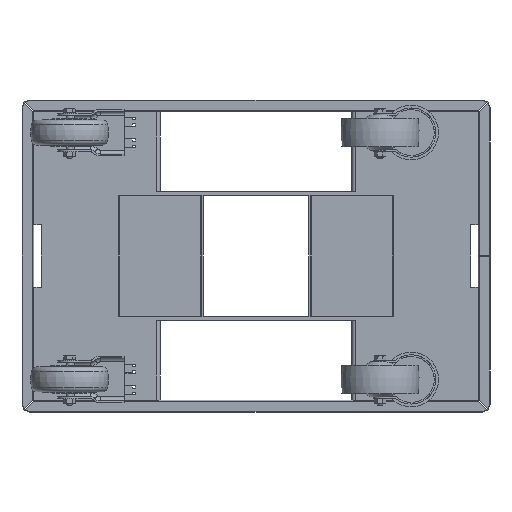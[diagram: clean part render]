
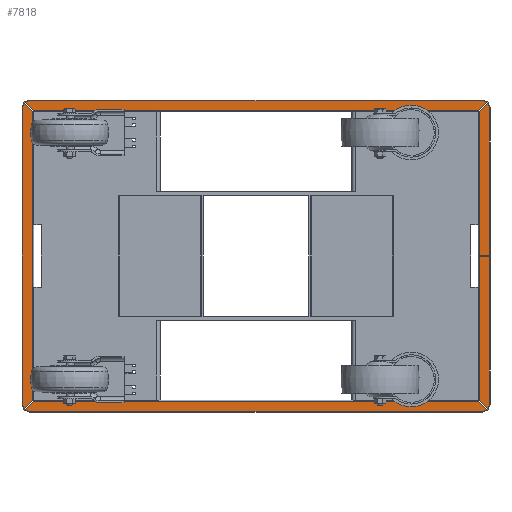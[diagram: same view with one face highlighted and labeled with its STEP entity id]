
A CAD part, front view. The second image highlights one B-rep face of the part: STEP entity #7818.
In plain terms, the highlighted planar face has unit normal (0, -1, 0) as drawn and (0, 1, 0) by its records, which use the part's own axes.
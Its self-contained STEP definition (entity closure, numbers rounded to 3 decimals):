
#340=CIRCLE('',#8972,9.);
#341=CIRCLE('',#8973,9.);
#342=CIRCLE('',#8974,9.);
#343=CIRCLE('',#8975,9.);
#1181=ORIENTED_EDGE('',*,*,#3344,.T.);
#1182=ORIENTED_EDGE('',*,*,#3345,.T.);
#1183=ORIENTED_EDGE('',*,*,#3324,.F.);
#1184=ORIENTED_EDGE('',*,*,#3328,.F.);
#1185=ORIENTED_EDGE('',*,*,#3333,.F.);
#1186=ORIENTED_EDGE('',*,*,#3346,.T.);
#1187=ORIENTED_EDGE('',*,*,#3338,.F.);
#1188=ORIENTED_EDGE('',*,*,#3341,.F.);
#1189=ORIENTED_EDGE('',*,*,#3293,.F.);
#1190=ORIENTED_EDGE('',*,*,#3347,.T.);
#1191=ORIENTED_EDGE('',*,*,#3297,.F.);
#1192=ORIENTED_EDGE('',*,*,#3304,.F.);
#1193=ORIENTED_EDGE('',*,*,#3307,.F.);
#1194=ORIENTED_EDGE('',*,*,#3348,.T.);
#1195=ORIENTED_EDGE('',*,*,#3310,.F.);
#1196=ORIENTED_EDGE('',*,*,#3318,.F.);
#1197=ORIENTED_EDGE('',*,*,#3320,.F.);
#1198=ORIENTED_EDGE('',*,*,#2908,.T.);
#1199=ORIENTED_EDGE('',*,*,#3349,.F.);
#1200=ORIENTED_EDGE('',*,*,#2898,.T.);
#1201=ORIENTED_EDGE('',*,*,#3350,.T.);
#1202=ORIENTED_EDGE('',*,*,#3351,.T.);
#1203=ORIENTED_EDGE('',*,*,#3352,.T.);
#1204=ORIENTED_EDGE('',*,*,#3353,.T.);
#1205=ORIENTED_EDGE('',*,*,#3354,.T.);
#1206=ORIENTED_EDGE('',*,*,#3355,.T.);
#1207=ORIENTED_EDGE('',*,*,#3356,.T.);
#1208=ORIENTED_EDGE('',*,*,#3357,.T.);
#2898=EDGE_CURVE('',#4015,#4016,#4784,.T.);
#2908=EDGE_CURVE('',#4022,#4021,#4787,.F.);
#3293=EDGE_CURVE('',#4365,#4366,#5132,.T.);
#3297=EDGE_CURVE('',#4369,#4370,#5135,.T.);
#3304=EDGE_CURVE('',#4374,#4369,#5140,.T.);
#3307=EDGE_CURVE('',#4376,#4374,#5142,.T.);
#3310=EDGE_CURVE('',#4378,#4379,#5144,.T.);
#3318=EDGE_CURVE('',#4384,#4378,#5150,.T.);
#3320=EDGE_CURVE('',#4022,#4384,#5152,.T.);
#3324=EDGE_CURVE('',#4387,#4388,#5155,.T.);
#3328=EDGE_CURVE('',#4390,#4387,#5158,.T.);
#3333=EDGE_CURVE('',#4393,#4390,#5161,.T.);
#3338=EDGE_CURVE('',#4397,#4398,#5165,.T.);
#3341=EDGE_CURVE('',#4366,#4397,#5167,.T.);
#3344=EDGE_CURVE('',#4399,#4400,#5170,.T.);
#3345=EDGE_CURVE('',#4400,#4388,#5171,.F.);
#3346=EDGE_CURVE('',#4393,#4398,#5172,.F.);
#3347=EDGE_CURVE('',#4365,#4370,#5173,.F.);
#3348=EDGE_CURVE('',#4376,#4379,#5174,.F.);
#3349=EDGE_CURVE('',#4015,#4021,#5175,.T.);
#3350=EDGE_CURVE('',#4016,#4401,#340,.T.);
#3351=EDGE_CURVE('',#4401,#4402,#5176,.T.);
#3352=EDGE_CURVE('',#4402,#4403,#341,.T.);
#3353=EDGE_CURVE('',#4403,#4404,#5177,.T.);
#3354=EDGE_CURVE('',#4404,#4405,#342,.T.);
#3355=EDGE_CURVE('',#4405,#4406,#5178,.T.);
#3356=EDGE_CURVE('',#4406,#4407,#343,.T.);
#3357=EDGE_CURVE('',#4407,#4399,#5179,.T.);
#4015=VERTEX_POINT('',#11951);
#4016=VERTEX_POINT('',#11952);
#4021=VERTEX_POINT('',#11969);
#4022=VERTEX_POINT('',#11971);
#4365=VERTEX_POINT('',#12733);
#4366=VERTEX_POINT('',#12735);
#4369=VERTEX_POINT('',#12743);
#4370=VERTEX_POINT('',#12744);
#4374=VERTEX_POINT('',#12755);
#4376=VERTEX_POINT('',#12761);
#4378=VERTEX_POINT('',#12768);
#4379=VERTEX_POINT('',#12769);
#4384=VERTEX_POINT('',#12782);
#4387=VERTEX_POINT('',#12793);
#4388=VERTEX_POINT('',#12795);
#4390=VERTEX_POINT('',#12801);
#4393=VERTEX_POINT('',#12810);
#4397=VERTEX_POINT('',#12820);
#4398=VERTEX_POINT('',#12822);
#4399=VERTEX_POINT('',#12832);
#4400=VERTEX_POINT('',#12833);
#4401=VERTEX_POINT('',#12840);
#4402=VERTEX_POINT('',#12842);
#4403=VERTEX_POINT('',#12844);
#4404=VERTEX_POINT('',#12846);
#4405=VERTEX_POINT('',#12848);
#4406=VERTEX_POINT('',#12850);
#4407=VERTEX_POINT('',#12852);
#4784=LINE('',#11950,#5514);
#4787=LINE('',#11970,#5517);
#5132=LINE('',#12734,#5862);
#5135=LINE('',#12742,#5865);
#5140=LINE('',#12756,#5870);
#5142=LINE('',#12762,#5872);
#5144=LINE('',#12767,#5874);
#5150=LINE('',#12783,#5880);
#5152=LINE('',#12786,#5882);
#5155=LINE('',#12794,#5885);
#5158=LINE('',#12802,#5888);
#5161=LINE('',#12811,#5891);
#5165=LINE('',#12821,#5895);
#5167=LINE('',#12826,#5897);
#5170=LINE('',#12831,#5900);
#5171=LINE('',#12834,#5901);
#5172=LINE('',#12835,#5902);
#5173=LINE('',#12836,#5903);
#5174=LINE('',#12837,#5904);
#5175=LINE('',#12838,#5905);
#5176=LINE('',#12841,#5906);
#5177=LINE('',#12845,#5907);
#5178=LINE('',#12849,#5908);
#5179=LINE('',#12853,#5909);
#5514=VECTOR('',#9656,1000.);
#5517=VECTOR('',#9679,1000.);
#5862=VECTOR('',#10174,1000.);
#5865=VECTOR('',#10181,1000.);
#5870=VECTOR('',#10192,1000.);
#5872=VECTOR('',#10198,1000.);
#5874=VECTOR('',#10204,1000.);
#5880=VECTOR('',#10216,1000.);
#5882=VECTOR('',#10220,1000.);
#5885=VECTOR('',#10227,1000.);
#5888=VECTOR('',#10234,1000.);
#5891=VECTOR('',#10243,1000.);
#5895=VECTOR('',#10251,1000.);
#5897=VECTOR('',#10257,1000.);
#5900=VECTOR('',#10264,1000.);
#5901=VECTOR('',#10265,1000.);
#5902=VECTOR('',#10266,1000.);
#5903=VECTOR('',#10267,1000.);
#5904=VECTOR('',#10268,1000.);
#5905=VECTOR('',#10269,1000.);
#5906=VECTOR('',#10272,1000.);
#5907=VECTOR('',#10275,1000.);
#5908=VECTOR('',#10278,1000.);
#5909=VECTOR('',#10281,1000.);
#6314=EDGE_LOOP('',(#1181,#1182,#1183,#1184,#1185,#1186,#1187,#1188,#1189,
#1190,#1191,#1192,#1193,#1194,#1195,#1196,#1197,#1198,#1199,#1200,#1201,
#1202,#1203,#1204,#1205,#1206,#1207,#1208));
#6938=FACE_BOUND('',#6314,.T.);
#7515=PLANE('',#8971);
#7818=ADVANCED_FACE('',(#6938),#7515,.T.);
#8971=AXIS2_PLACEMENT_3D('',#12830,#10262,#10263);
#8972=AXIS2_PLACEMENT_3D('',#12839,#10270,#10271);
#8973=AXIS2_PLACEMENT_3D('',#12843,#10273,#10274);
#8974=AXIS2_PLACEMENT_3D('',#12847,#10276,#10277);
#8975=AXIS2_PLACEMENT_3D('',#12851,#10279,#10280);
#9656=DIRECTION('',(0.,0.,-1.));
#9679=DIRECTION('',(0.,0.,-1.));
#10174=DIRECTION('',(-0.707,0.,0.707));
#10181=DIRECTION('',(0.707,0.,0.707));
#10192=DIRECTION('',(-0.707,0.,0.707));
#10198=DIRECTION('',(-0.707,0.,-0.707));
#10204=DIRECTION('',(-0.707,0.,0.707));
#10216=DIRECTION('',(-0.707,0.,-0.707));
#10220=DIRECTION('',(0.707,0.,-0.707));
#10227=DIRECTION('',(-0.707,0.,-0.707));
#10234=DIRECTION('',(0.707,0.,-0.707));
#10243=DIRECTION('',(0.707,0.,0.707));
#10251=DIRECTION('',(0.707,0.,-0.707));
#10257=DIRECTION('',(0.707,0.,0.707));
#10262=DIRECTION('',(0.,1.,0.));
#10263=DIRECTION('',(0.,0.,1.));
#10264=DIRECTION('',(-1.,0.,0.));
#10265=DIRECTION('',(0.,0.,-1.));
#10266=DIRECTION('',(1.,0.,0.));
#10267=DIRECTION('',(0.,0.,1.));
#10268=DIRECTION('',(-1.,0.,0.));
#10269=DIRECTION('',(-1.,0.,0.));
#10270=DIRECTION('',(0.,1.,0.));
#10271=DIRECTION('',(0.,0.,1.));
#10272=DIRECTION('',(-1.,0.,0.));
#10273=DIRECTION('',(0.,1.,0.));
#10274=DIRECTION('',(0.,0.,1.));
#10275=DIRECTION('',(0.,0.,1.));
#10276=DIRECTION('',(0.,1.,0.));
#10277=DIRECTION('',(0.,0.,1.));
#10278=DIRECTION('',(1.,0.,0.));
#10279=DIRECTION('',(0.,1.,0.));
#10280=DIRECTION('',(0.,0.,1.));
#10281=DIRECTION('',(0.,0.,-1.));
#11950=CARTESIAN_POINT('',(299.,30.,-190.));
#11951=CARTESIAN_POINT('',(299.,30.,-0.4));
#11952=CARTESIAN_POINT('',(299.,30.,-190.));
#11969=CARTESIAN_POINT('',(286.,30.,-0.4));
#11970=CARTESIAN_POINT('',(286.,30.,-190.));
#11971=CARTESIAN_POINT('',(286.,30.,-185.576));
#12733=CARTESIAN_POINT('',(-286.,30.,185.576));
#12734=CARTESIAN_POINT('',(-285.,30.,184.576));
#12735=CARTESIAN_POINT('',(-296.314,30.,195.889));
#12742=CARTESIAN_POINT('',(-296.314,30.,-195.889));
#12743=CARTESIAN_POINT('',(-296.314,30.,-195.889));
#12744=CARTESIAN_POINT('',(-286.,30.,-185.576));
#12755=CARTESIAN_POINT('',(-295.889,30.,-196.314));
#12756=CARTESIAN_POINT('',(-295.889,30.,-196.314));
#12761=CARTESIAN_POINT('',(-285.576,30.,-186.));
#12762=CARTESIAN_POINT('',(-284.576,30.,-185.));
#12767=CARTESIAN_POINT('',(295.889,30.,-196.314));
#12768=CARTESIAN_POINT('',(295.889,30.,-196.314));
#12769=CARTESIAN_POINT('',(285.576,30.,-186.));
#12782=CARTESIAN_POINT('',(296.314,30.,-195.889));
#12783=CARTESIAN_POINT('',(296.314,30.,-195.889));
#12786=CARTESIAN_POINT('',(285.,30.,-184.576));
#12793=CARTESIAN_POINT('',(296.314,30.,195.889));
#12794=CARTESIAN_POINT('',(296.314,30.,195.889));
#12795=CARTESIAN_POINT('',(286.,30.,185.576));
#12801=CARTESIAN_POINT('',(295.889,30.,196.314));
#12802=CARTESIAN_POINT('',(295.889,30.,196.314));
#12810=CARTESIAN_POINT('',(285.576,30.,186.));
#12811=CARTESIAN_POINT('',(284.576,30.,185.));
#12820=CARTESIAN_POINT('',(-295.889,30.,196.314));
#12821=CARTESIAN_POINT('',(-295.889,30.,196.314));
#12822=CARTESIAN_POINT('',(-285.576,30.,186.));
#12826=CARTESIAN_POINT('',(-296.314,30.,195.889));
#12830=CARTESIAN_POINT('',(-290.,30.,-190.));
#12831=CARTESIAN_POINT('',(300.,30.,0.4));
#12832=CARTESIAN_POINT('',(299.,30.,0.4));
#12833=CARTESIAN_POINT('',(286.,30.,0.4));
#12834=CARTESIAN_POINT('',(286.,30.,-190.));
#12835=CARTESIAN_POINT('',(-290.,30.,186.));
#12836=CARTESIAN_POINT('',(-286.,30.,-190.));
#12837=CARTESIAN_POINT('',(-290.,30.,-186.));
#12838=CARTESIAN_POINT('',(300.,30.,-0.4));
#12839=CARTESIAN_POINT('',(290.,30.,-190.));
#12840=CARTESIAN_POINT('',(290.,30.,-199.));
#12841=CARTESIAN_POINT('',(-290.,30.,-199.));
#12842=CARTESIAN_POINT('',(-290.,30.,-199.));
#12843=CARTESIAN_POINT('',(-290.,30.,-190.));
#12844=CARTESIAN_POINT('',(-299.,30.,-190.));
#12845=CARTESIAN_POINT('',(-299.,30.,190.));
#12846=CARTESIAN_POINT('',(-299.,30.,190.));
#12847=CARTESIAN_POINT('',(-290.,30.,190.));
#12848=CARTESIAN_POINT('',(-290.,30.,199.));
#12849=CARTESIAN_POINT('',(290.,30.,199.));
#12850=CARTESIAN_POINT('',(290.,30.,199.));
#12851=CARTESIAN_POINT('',(290.,30.,190.));
#12852=CARTESIAN_POINT('',(299.,30.,190.));
#12853=CARTESIAN_POINT('',(299.,30.,-190.));
